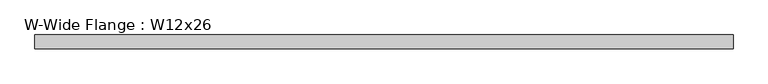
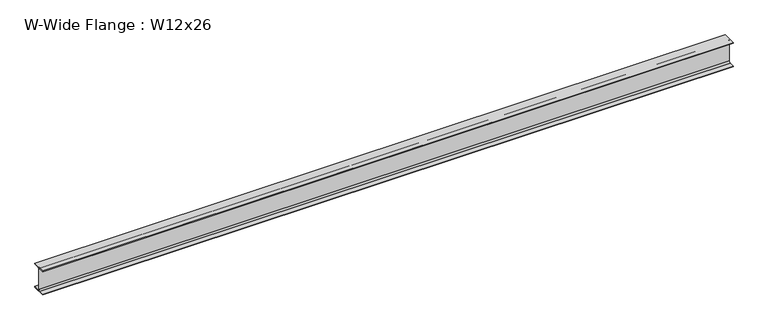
"""IFC4 building model written with IfcOpenShell, lengths in millimetres: beam geometry, W-Wide Flange : W12x26."""

from ifc_helpers import new_model, si_unit, point, frame, frame_2d, origin, place, context, project, spatial, polyline, circle_curve, trimmed, segment, composite_curve, outline, extrude, source, transform, mapped, element, save


def w_wide_flange_w12x26_1dafd550(model_context):
    return source(origin(), model_context, "Body", "SweptSolid", [
        extrude(outline(composite_curve([segment(polyline([(82.423, -145.288), (82.423, -154.94), (-82.423, -154.94), (-82.423, -145.288), (-20.2565, -145.288)]), True, "CONTINUOUS"), segment(trimmed(circle_curve(frame_2d((-20.2565, -127.9525)), 17.3355), [point((-20.2565, -145.288))], [point((-2.921, -127.9525))], True, "CARTESIAN"), True, "CONTINUOUS"), segment(polyline([(-2.921, -127.9525), (-2.921, 127.9525)]), True, "CONTINUOUS"), segment(trimmed(circle_curve(frame_2d((-20.2565, 127.9525)), 17.3355), [point((-2.921, 127.9525))], [point((-20.2565, 145.288))], True, "CARTESIAN"), True, "CONTINUOUS"), segment(polyline([(-20.2565, 145.288), (-82.423, 145.288), (-82.423, 154.94), (82.423, 154.94), (82.423, 145.288), (20.2565, 145.288)]), True, "CONTINUOUS"), segment(trimmed(circle_curve(frame_2d((20.2565, 127.9525)), 17.3355), [point((20.2565, 145.288))], [point((2.921, 127.9525))], True, "CARTESIAN"), True, "CONTINUOUS"), segment(polyline([(2.921, 127.9525), (2.921, -127.9525)]), True, "CONTINUOUS"), segment(trimmed(circle_curve(frame_2d((20.2565, -127.9525)), 17.3355), [point((2.921, -127.9525))], [point((20.2565, -145.288))], True, "CARTESIAN"), True, "CONTINUOUS"), segment(polyline([(20.2565, -145.288), (82.423, -145.288)]), True, "CONTINUOUS")], self_intersect=False)), frame((-4180.078, 0.0, 0.0), z_axis=(1.0, 0.0, 0.0), x_axis=(0.0, 1.0, 0.0)), (0.0, 0.0, 1.0), 8388.096),
    ])


if __name__ == "__main__":
    model = new_model("IFC4")
    model_context = context("Model", 3, world=origin())
    ifc_project = project(units=[si_unit("LENGTHUNIT", "METRE", prefix="MILLI")], contexts=[model_context])
    site = spatial("IfcSite", under=ifc_project)
    building = spatial("IfcBuilding", under=site)
    placement = place(None, origin())
    w_wide_flange_w12x26_shape = w_wide_flange_w12x26_1dafd550(model_context)
    element("IfcBeam", 1, ObjectType="W-Wide Flange : W12x26", at=placement, inside=building, context=model_context, shape_type="MappedRepresentation", body=[
        mapped(w_wide_flange_w12x26_shape, transform((0.0, 0.0, 0.0), x_axis=(1.0, 0.0, 0.0), y_axis=(0.0, 1.0, 0.0), z_axis=(0.0, 0.0, 1.0))),
    ])
    save(model, "model.ifc")
